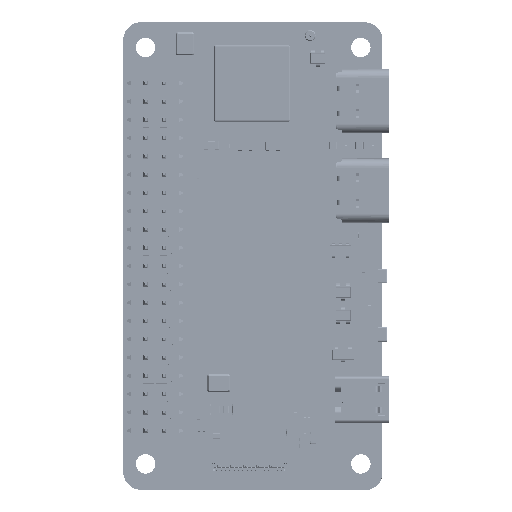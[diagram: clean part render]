
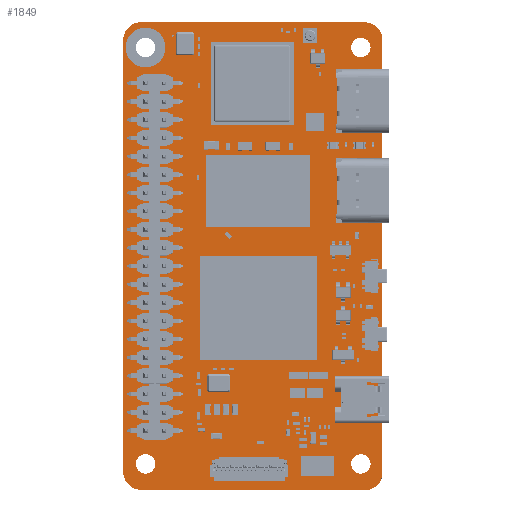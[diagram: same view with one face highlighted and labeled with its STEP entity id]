
A CAD part, top view. The second image highlights one B-rep face of the part: STEP entity #1849.
In plain terms, the highlighted planar face has unit normal (0, 0, 1).
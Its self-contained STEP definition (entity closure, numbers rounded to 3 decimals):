
#1316=CARTESIAN_POINT('',(33.659,2.364,1.2));
#1317=DIRECTION('',(0.,0.,1.));
#1318=DIRECTION('',(0.069,-0.998,0.));
#1319=AXIS2_PLACEMENT_3D('',#1316,#1317,#1318);
#1321=DIRECTION('',(1.,0.,0.));
#1322=VECTOR('',#1321,31.256);
#1323=CARTESIAN_POINT('',(2.566,0.,1.2));
#1324=LINE('',#1323,#1322);
#1325=CARTESIAN_POINT('',(2.566,2.566,1.2));
#1326=DIRECTION('',(0.,0.,1.));
#1327=DIRECTION('',(-1.,0.,0.));
#1328=AXIS2_PLACEMENT_3D('',#1325,#1326,#1327);
#1330=DIRECTION('',(0.,-1.,0.));
#1331=VECTOR('',#1330,59.869);
#1332=CARTESIAN_POINT('',(0.,62.435,1.2));
#1333=LINE('',#1332,#1331);
#1334=CARTESIAN_POINT('',(2.566,62.435,1.2));
#1335=DIRECTION('',(0.,0.,1.));
#1336=DIRECTION('',(0.,1.,0.));
#1337=AXIS2_PLACEMENT_3D('',#1334,#1335,#1336);
#1339=DIRECTION('',(-1.,0.002,0.));
#1340=VECTOR('',#1339,31.04);
#1341=CARTESIAN_POINT('',(33.606,64.953,1.2));
#1342=LINE('',#1341,#1340);
#1343=CARTESIAN_POINT('',(33.606,62.536,1.2));
#1344=DIRECTION('',(0.,0.,1.));
#1345=DIRECTION('',(1.,0.,0.));
#1346=AXIS2_PLACEMENT_3D('',#1343,#1344,#1345);
#1348=DIRECTION('',(0.,1.,0.));
#1349=VECTOR('',#1348,60.009);
#1350=CARTESIAN_POINT('',(36.023,2.527,1.2));
#1351=LINE('',#1350,#1349);
#1352=CARTESIAN_POINT('',(3.123,3.622,1.2));
#1353=DIRECTION('',(0.,0.,1.));
#1354=DIRECTION('',(0.,1.,0.));
#1355=AXIS2_PLACEMENT_3D('',#1352,#1353,#1354);
#1357=CARTESIAN_POINT('',(3.123,3.622,1.2));
#1358=DIRECTION('',(0.,0.,1.));
#1359=DIRECTION('',(0.,-1.,0.));
#1360=AXIS2_PLACEMENT_3D('',#1357,#1358,#1359);
#1362=CARTESIAN_POINT('',(33.023,3.622,1.2));
#1363=DIRECTION('',(0.,0.,1.));
#1364=DIRECTION('',(0.,1.,0.));
#1365=AXIS2_PLACEMENT_3D('',#1362,#1363,#1364);
#1367=CARTESIAN_POINT('',(33.023,3.622,1.2));
#1368=DIRECTION('',(0.,0.,1.));
#1369=DIRECTION('',(0.,-1.,0.));
#1370=AXIS2_PLACEMENT_3D('',#1367,#1368,#1369);
#1372=CARTESIAN_POINT('',(33.023,61.458,1.2));
#1373=DIRECTION('',(0.,0.,1.));
#1374=DIRECTION('',(0.,1.,0.));
#1375=AXIS2_PLACEMENT_3D('',#1372,#1373,#1374);
#1377=CARTESIAN_POINT('',(33.023,61.458,1.2));
#1378=DIRECTION('',(0.,0.,1.));
#1379=DIRECTION('',(0.,-1.,0.));
#1380=AXIS2_PLACEMENT_3D('',#1377,#1378,#1379);
#1382=CARTESIAN_POINT('',(3.123,61.458,1.2));
#1383=DIRECTION('',(0.,0.,1.));
#1384=DIRECTION('',(0.,1.,0.));
#1385=AXIS2_PLACEMENT_3D('',#1382,#1383,#1384);
#1387=CARTESIAN_POINT('',(3.123,61.458,1.2));
#1388=DIRECTION('',(0.,0.,1.));
#1389=DIRECTION('',(0.,-1.,0.));
#1390=AXIS2_PLACEMENT_3D('',#1387,#1388,#1389);
#1392=CARTESIAN_POINT('',(34.548,20.765,1.2));
#1393=DIRECTION('',(0.,0.,1.));
#1394=DIRECTION('',(0.,1.,0.));
#1395=AXIS2_PLACEMENT_3D('',#1392,#1393,#1394);
#1397=CARTESIAN_POINT('',(34.548,20.765,1.2));
#1398=DIRECTION('',(0.,0.,1.));
#1399=DIRECTION('',(0.,-1.,0.));
#1400=AXIS2_PLACEMENT_3D('',#1397,#1398,#1399);
#1402=CARTESIAN_POINT('',(34.548,22.465,1.2));
#1403=DIRECTION('',(0.,0.,1.));
#1404=DIRECTION('',(0.,1.,0.));
#1405=AXIS2_PLACEMENT_3D('',#1402,#1403,#1404);
#1407=CARTESIAN_POINT('',(34.548,22.465,1.2));
#1408=DIRECTION('',(0.,0.,1.));
#1409=DIRECTION('',(0.,-1.,0.));
#1410=AXIS2_PLACEMENT_3D('',#1407,#1408,#1409);
#1412=CARTESIAN_POINT('',(34.548,28.865,1.2));
#1413=DIRECTION('',(0.,0.,1.));
#1414=DIRECTION('',(0.,1.,0.));
#1415=AXIS2_PLACEMENT_3D('',#1412,#1413,#1414);
#1417=CARTESIAN_POINT('',(34.548,28.865,1.2));
#1418=DIRECTION('',(0.,0.,1.));
#1419=DIRECTION('',(0.,-1.,0.));
#1420=AXIS2_PLACEMENT_3D('',#1417,#1418,#1419);
#1422=CARTESIAN_POINT('',(34.548,30.565,1.2));
#1423=DIRECTION('',(0.,0.,1.));
#1424=DIRECTION('',(0.,1.,0.));
#1425=AXIS2_PLACEMENT_3D('',#1422,#1423,#1424);
#1427=CARTESIAN_POINT('',(34.548,30.565,1.2));
#1428=DIRECTION('',(0.,0.,1.));
#1429=DIRECTION('',(0.,-1.,0.));
#1430=AXIS2_PLACEMENT_3D('',#1427,#1428,#1429);
#1508=CARTESIAN_POINT('',(33.823,0.,1.2));
#1509=CARTESIAN_POINT('',(36.023,2.527,1.2));
#1510=VERTEX_POINT('',#1508);
#1511=VERTEX_POINT('',#1509);
#1512=CARTESIAN_POINT('',(36.023,62.536,1.2));
#1513=VERTEX_POINT('',#1512);
#1514=CARTESIAN_POINT('',(33.606,64.953,1.2));
#1515=VERTEX_POINT('',#1514);
#1516=CARTESIAN_POINT('',(2.566,65.002,1.2));
#1517=VERTEX_POINT('',#1516);
#1518=CARTESIAN_POINT('',(0.,62.435,1.2));
#1519=VERTEX_POINT('',#1518);
#1520=CARTESIAN_POINT('',(0.,2.566,1.2));
#1521=VERTEX_POINT('',#1520);
#1522=CARTESIAN_POINT('',(2.566,0.,1.2));
#1523=VERTEX_POINT('',#1522);
#1540=CARTESIAN_POINT('',(3.123,4.972,1.2));
#1541=CARTESIAN_POINT('',(3.123,2.272,1.2));
#1542=VERTEX_POINT('',#1540);
#1543=VERTEX_POINT('',#1541);
#1544=CARTESIAN_POINT('',(33.023,4.972,1.2));
#1545=CARTESIAN_POINT('',(33.023,2.272,1.2));
#1546=VERTEX_POINT('',#1544);
#1547=VERTEX_POINT('',#1545);
#1548=CARTESIAN_POINT('',(33.023,62.808,1.2));
#1549=CARTESIAN_POINT('',(33.023,60.108,1.2));
#1550=VERTEX_POINT('',#1548);
#1551=VERTEX_POINT('',#1549);
#1552=CARTESIAN_POINT('',(3.123,62.808,1.2));
#1553=CARTESIAN_POINT('',(3.123,60.108,1.2));
#1554=VERTEX_POINT('',#1552);
#1555=VERTEX_POINT('',#1553);
#1572=CARTESIAN_POINT('',(34.548,21.095,1.2));
#1573=CARTESIAN_POINT('',(34.548,20.435,1.2));
#1574=VERTEX_POINT('',#1572);
#1575=VERTEX_POINT('',#1573);
#1576=CARTESIAN_POINT('',(34.548,22.795,1.2));
#1577=CARTESIAN_POINT('',(34.548,22.135,1.2));
#1578=VERTEX_POINT('',#1576);
#1579=VERTEX_POINT('',#1577);
#1580=CARTESIAN_POINT('',(34.548,29.195,1.2));
#1581=CARTESIAN_POINT('',(34.548,28.535,1.2));
#1582=VERTEX_POINT('',#1580);
#1583=VERTEX_POINT('',#1581);
#1584=CARTESIAN_POINT('',(34.548,30.895,1.2));
#1585=CARTESIAN_POINT('',(34.548,30.235,1.2));
#1586=VERTEX_POINT('',#1584);
#1587=VERTEX_POINT('',#1585);
#1787=CARTESIAN_POINT('',(0.,0.,1.2));
#1788=DIRECTION('',(0.,0.,1.));
#1789=DIRECTION('',(1.,0.,0.));
#1790=AXIS2_PLACEMENT_3D('',#1787,#1788,#1789);
#1791=PLANE('',#1790);
#1792=ORIENTED_EDGE('',*,*,#1683,.F.);
#1793=ORIENTED_EDGE('',*,*,#1698,.F.);
#1794=ORIENTED_EDGE('',*,*,#1712,.F.);
#1795=ORIENTED_EDGE('',*,*,#1726,.F.);
#1796=ORIENTED_EDGE('',*,*,#1740,.F.);
#1797=ORIENTED_EDGE('',*,*,#1754,.F.);
#1798=ORIENTED_EDGE('',*,*,#1768,.F.);
#1799=ORIENTED_EDGE('',*,*,#1781,.F.);
#1800=EDGE_LOOP('',(#1792,#1793,#1794,#1795,#1796,#1797,#1798,#1799));
#1801=FACE_OUTER_BOUND('',#1800,.F.);
#1803=ORIENTED_EDGE('',*,*,#1802,.T.);
#1805=ORIENTED_EDGE('',*,*,#1804,.T.);
#1806=EDGE_LOOP('',(#1803,#1805));
#1807=FACE_BOUND('',#1806,.F.);
#1809=ORIENTED_EDGE('',*,*,#1808,.T.);
#1810=ORIENTED_EDGE('',*,*,#1597,.T.);
#1811=EDGE_LOOP('',(#1809,#1810));
#1812=FACE_BOUND('',#1811,.F.);
#1814=ORIENTED_EDGE('',*,*,#1813,.T.);
#1816=ORIENTED_EDGE('',*,*,#1815,.T.);
#1817=EDGE_LOOP('',(#1814,#1816));
#1818=FACE_BOUND('',#1817,.F.);
#1820=ORIENTED_EDGE('',*,*,#1819,.T.);
#1822=ORIENTED_EDGE('',*,*,#1821,.T.);
#1823=EDGE_LOOP('',(#1820,#1822));
#1824=FACE_BOUND('',#1823,.F.);
#1826=ORIENTED_EDGE('',*,*,#1825,.T.);
#1828=ORIENTED_EDGE('',*,*,#1827,.T.);
#1829=EDGE_LOOP('',(#1826,#1828));
#1830=FACE_BOUND('',#1829,.F.);
#1832=ORIENTED_EDGE('',*,*,#1831,.T.);
#1834=ORIENTED_EDGE('',*,*,#1833,.T.);
#1835=EDGE_LOOP('',(#1832,#1834));
#1836=FACE_BOUND('',#1835,.F.);
#1838=ORIENTED_EDGE('',*,*,#1837,.T.);
#1840=ORIENTED_EDGE('',*,*,#1839,.T.);
#1841=EDGE_LOOP('',(#1838,#1840));
#1842=FACE_BOUND('',#1841,.F.);
#1844=ORIENTED_EDGE('',*,*,#1843,.T.);
#1846=ORIENTED_EDGE('',*,*,#1845,.T.);
#1847=EDGE_LOOP('',(#1844,#1846));
#1848=FACE_BOUND('',#1847,.F.);
#1849=ADVANCED_FACE('',(#1801,#1807,#1812,#1818,#1824,#1830,#1836,#1842,#1848),
#1791,.T.);
#1320=CIRCLE('',#1319,2.369);
#1329=CIRCLE('',#1328,2.566);
#1338=CIRCLE('',#1337,2.566);
#1347=CIRCLE('',#1346,2.416);
#1356=CIRCLE('',#1355,1.35);
#1361=CIRCLE('',#1360,1.35);
#1366=CIRCLE('',#1365,1.35);
#1371=CIRCLE('',#1370,1.35);
#1376=CIRCLE('',#1375,1.35);
#1381=CIRCLE('',#1380,1.35);
#1386=CIRCLE('',#1385,1.35);
#1391=CIRCLE('',#1390,1.35);
#1396=CIRCLE('',#1395,0.33);
#1401=CIRCLE('',#1400,0.33);
#1406=CIRCLE('',#1405,0.33);
#1411=CIRCLE('',#1410,0.33);
#1416=CIRCLE('',#1415,0.33);
#1421=CIRCLE('',#1420,0.33);
#1426=CIRCLE('',#1425,0.33);
#1431=CIRCLE('',#1430,0.33);
#1597=EDGE_CURVE('',#1547,#1546,#1371,.T.);
#1683=EDGE_CURVE('',#1510,#1511,#1320,.T.);
#1698=EDGE_CURVE('',#1523,#1510,#1324,.T.);
#1712=EDGE_CURVE('',#1521,#1523,#1329,.T.);
#1726=EDGE_CURVE('',#1519,#1521,#1333,.T.);
#1740=EDGE_CURVE('',#1517,#1519,#1338,.T.);
#1754=EDGE_CURVE('',#1515,#1517,#1342,.T.);
#1768=EDGE_CURVE('',#1513,#1515,#1347,.T.);
#1781=EDGE_CURVE('',#1511,#1513,#1351,.T.);
#1802=EDGE_CURVE('',#1542,#1543,#1356,.T.);
#1804=EDGE_CURVE('',#1543,#1542,#1361,.T.);
#1808=EDGE_CURVE('',#1546,#1547,#1366,.T.);
#1813=EDGE_CURVE('',#1550,#1551,#1376,.T.);
#1815=EDGE_CURVE('',#1551,#1550,#1381,.T.);
#1819=EDGE_CURVE('',#1554,#1555,#1386,.T.);
#1821=EDGE_CURVE('',#1555,#1554,#1391,.T.);
#1825=EDGE_CURVE('',#1574,#1575,#1396,.T.);
#1827=EDGE_CURVE('',#1575,#1574,#1401,.T.);
#1831=EDGE_CURVE('',#1578,#1579,#1406,.T.);
#1833=EDGE_CURVE('',#1579,#1578,#1411,.T.);
#1837=EDGE_CURVE('',#1582,#1583,#1416,.T.);
#1839=EDGE_CURVE('',#1583,#1582,#1421,.T.);
#1843=EDGE_CURVE('',#1586,#1587,#1426,.T.);
#1845=EDGE_CURVE('',#1587,#1586,#1431,.T.);
